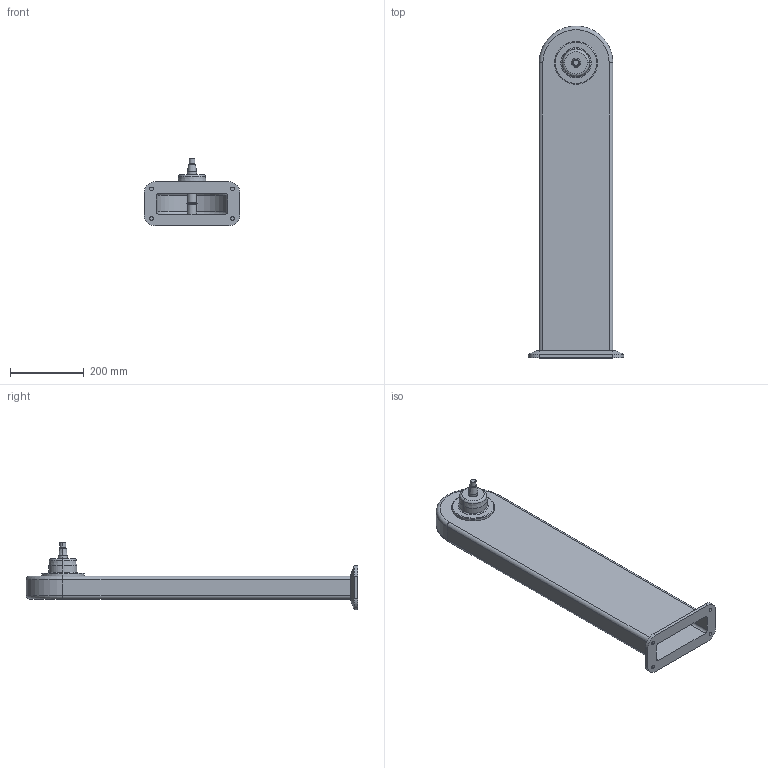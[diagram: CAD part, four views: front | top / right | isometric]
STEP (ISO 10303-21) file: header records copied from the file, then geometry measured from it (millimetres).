
FILE_DESCRIPTION (( 'STEP AP214' ), '1' );
FILE_NAME ('WP800_H800_+00.STEP', '2014-06-26T12:53:39', ( '' ), ( '' ), 'SwSTEP 2.0', 'SolidWorks 2014', '' );
FILE_SCHEMA (( 'AUTOMOTIVE_DESIGN' ));
Length unit declared in the file: millimetre
Products named in the file (1): WP800_H800_+00
Bounding box: 260 x 900 x 183.29 mm (x, y, z)
Volume: 1912247.5 mm3; surface area: 944860.5 mm2
Topology: 1 solids, 1 shells, 88 faces, 190 edges, 114 vertices
Faces by surface type: cylinder 36, plane 26, cone 16, torus 10
Entity records: 2428 total; most frequent: DIRECTION 468, CARTESIAN_POINT 393, ORIENTED_EDGE 380, EDGE_CURVE 190, AXIS2_PLACEMENT_3D 189, VERTEX_POINT 114, EDGE_LOOP 100, CIRCLE 100
